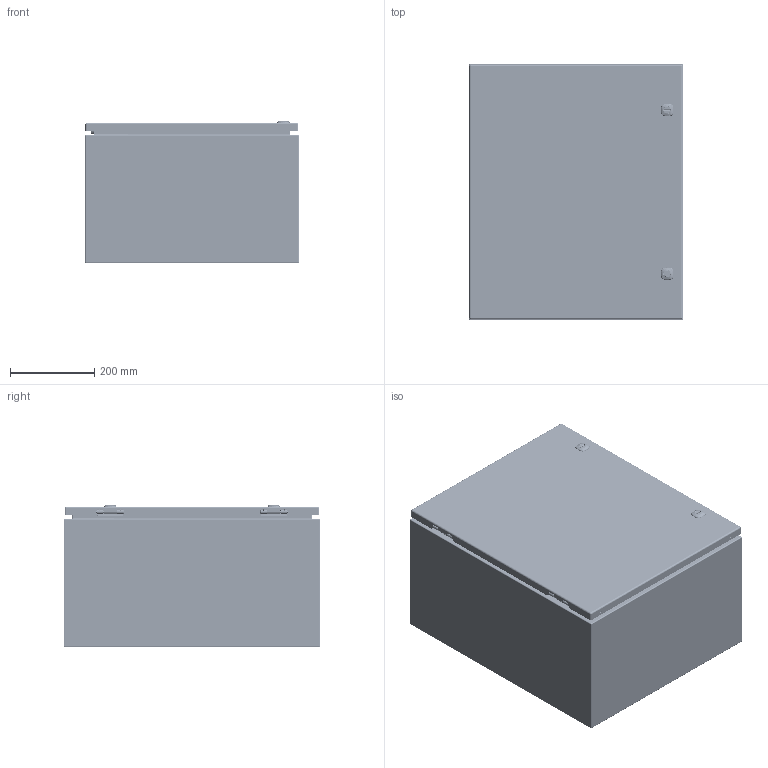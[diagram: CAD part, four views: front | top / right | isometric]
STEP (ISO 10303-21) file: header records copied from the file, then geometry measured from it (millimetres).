
FILE_DESCRIPTION(/* description */ ('5412ES 24" x 20" x 12" Assembly'),/* implementation_level */ '2;1');
FILE_NAME(/* name */ '5412ES242012.stp',/* time_stamp */ '2024-01-26T03:22:48-05:00',/* author */ ('patsan'),/* organization */ (''),/* preprocessor_version */ 'ST-DEVELOPER v20',/* originating_system */ 'Autodesk Inventor 2024',/* authorisation */ '');
FILE_SCHEMA (('AUTOMOTIVE_DESIGN { 1 0 10303 214 3 1 1 }'));
Products named in the file (42): 5412ES242012; 5412ES242012B; 5412ES242012B-P; STK-Q-16005; STUD_M6 x 16mm; 5412ES242012C; 5412ES242012C-P; 5412ES242012G; STK-K-09800; STK-Q-33014; STK-Q-90398; STK-Q-40095; STK-Q-63410; STK-Q-16055; STK-Q-46020-24; STK-Q-07220-1; STK-Q-07220-2; STK-Q-07220-3; STK-Q-07220-4; STK-Q-07220-A; STK-Q-07220-B; STK-P-02400S; STK-S-00100; STK-K-12500-1; STK-K-12500-2; STK-Q-78111; STK-Q-78120; STK-Q-78145; STK-Q-03200; STK-Q-78141; STK-Q-90390; STK-Q-78160; STK-Q-04050-08-1; STK-Q-04050-08-P; STK-Q-04051-N; 5412ES242012IPK; STK-Q-07610; STK-Q-07310; 881SP2420G; 881SP2420G-P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
Assembly tree (72 placements, depth 4):
  5412ES242012
    5412ES242012B
      5412ES242012B-P
      STK-Q-16005  x4
      STK-P-02400S
      STUD_M6 x 16mm
    5412ES242012C
      5412ES242012C-P
      5412ES242012G
      STK-K-09800  x2
        STK-Q-33014
        STK-Q-90398
        STK-Q-40095
        STK-Q-63410
      STK-Q-16055  x4
      STK-Q-46020-24  x2
      STK-Q-07220-1
        STK-Q-07220-A
        STK-Q-07220-B
      STK-Q-07220-2
        STK-Q-07220-A
        STK-Q-07220-B
      STK-Q-07220-3
        STK-Q-07220-A
        STK-Q-07220-B
      STK-Q-07220-4
        STK-Q-07220-A
        STK-Q-07220-B
      STK-P-02400S
      STK-S-00100
      STK-K-12500-1
        STK-Q-78111
        STK-Q-78120
        STK-Q-78145
        STK-Q-03200
        STK-Q-78141
        STK-Q-90390
        STK-Q-78160
      STK-K-12500-2
        STK-Q-78111
        STK-Q-78120
        STK-Q-78145
        STK-Q-03200
        STK-Q-78141
        STK-Q-90390
        STK-Q-78160
    STK-Q-04050-08-1  x2
      STK-Q-04050-08-P
      STK-Q-04051-N
    5412ES242012IPK
      STK-Q-07610  x4
      STK-Q-07310  x4
    881SP2420G
      881SP2420G-P
    STK-A-01800
    880 PP
Bounding box: 508.07 x 609.6 x 337.95 mm (x, y, z)
Volume: 2873811 mm3; surface area: 3643466.3 mm2
Topology: 62 solids, 62 shells, 9730 faces, 25719 edges, 16132 vertices
Faces by surface type: bspline 3318, plane 2795, cylinder 2574, torus 691, sphere 216, cone 136
Full cylindrical faces by diameter (mm): 0 x1, 0.75 x9, 0.762 x9, 1 x8, 1.1 x8, 3.2 x4, 4.191 x40, 4.5 x4, 4.521 x8, 4.75 x2, 4.85 x16, 4.95 x4, 5 x4, 5.1 x30, 5.156 x4, 5.6 x2, 5.9 x25, 6.015 x40, 6.65 x4, 6.8 x4, 6.85 x8, 7.3 x2, 7.366 x4, 7.9 x8, 8 x12, 8.382 x2, 9.5 x4, 9.6 x2, 9.906 x4, 10 x2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
Entity records: 151845 total; most frequent: CARTESIAN_POINT 60671, ORIENTED_EDGE 20624, DIRECTION 15542, EDGE_CURVE 10312, VERTEX_POINT 6454, AXIS2_PLACEMENT_3D 5727, EDGE_LOOP 4278, LINE 4088
